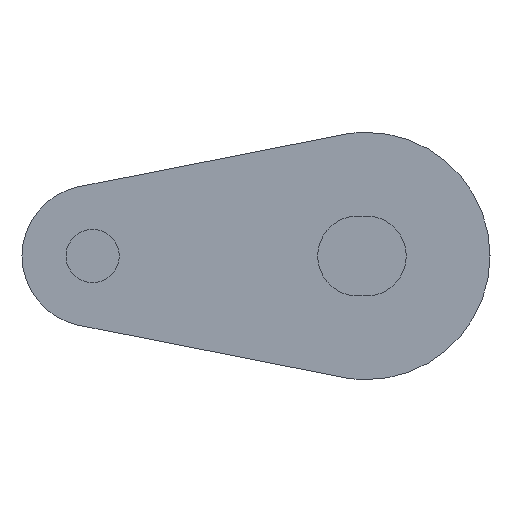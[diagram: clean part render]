
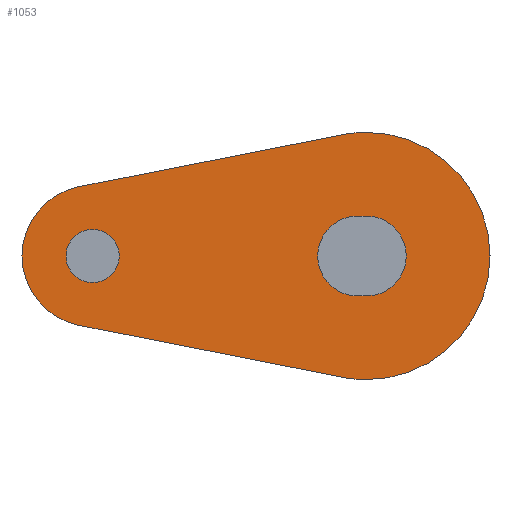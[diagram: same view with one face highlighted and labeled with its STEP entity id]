
A CAD part, left-side view. The second image highlights one B-rep face of the part: STEP entity #1053.
In plain terms, the highlighted planar face has unit normal (-1, 0, 0).
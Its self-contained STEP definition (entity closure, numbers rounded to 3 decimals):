
#29 = FACE_OUTER_BOUND ( 'NONE', #1003, .T. ) ;
#31 = FACE_BOUND ( 'NONE', #995, .T. ) ;
#34 = FACE_BOUND ( 'NONE', #994, .T. ) ;
#61 = AXIS2_PLACEMENT_3D ( 'NONE', #309, #307, #302 ) ;
#71 = AXIS2_PLACEMENT_3D ( 'NONE', #460, #467, #466 ) ;
#78 = AXIS2_PLACEMENT_3D ( 'NONE', #542, #541, #540 ) ;
#80 = AXIS2_PLACEMENT_3D ( 'NONE', #563, #562, #538 ) ;
#89 = AXIS2_PLACEMENT_3D ( 'NONE', #539, #543, #547 ) ;
#100 = AXIS2_PLACEMENT_3D ( 'NONE', #481, #491, #490 ) ;
#142 = AXIS2_PLACEMENT_3D ( 'NONE', #522, #657, #658 ) ;
#147 = AXIS2_PLACEMENT_3D ( 'NONE', #623, #622, #625 ) ;
#148 = AXIS2_PLACEMENT_3D ( 'NONE', #510, #487, #486 ) ;
#160 = EDGE_CURVE ( 'NONE', #603, #596, #793, .T. ) ;
#167 = EDGE_CURVE ( 'NONE', #652, #609, #782, .T. ) ;
#169 = EDGE_CURVE ( 'NONE', #616, #637, #779, .T. ) ;
#171 = EDGE_CURVE ( 'NONE', #637, #603, #780, .T. ) ;
#180 = EDGE_CURVE ( 'NONE', #609, #652, #765, .T. ) ;
#194 = EDGE_CURVE ( 'NONE', #682, #681, #740, .T. ) ;
#198 = EDGE_CURVE ( 'NONE', #635, #682, #733, .T. ) ;
#201 = EDGE_CURVE ( 'NONE', #621, #635, #731, .T. ) ;
#202 = EDGE_CURVE ( 'NONE', #596, #616, #739, .T. ) ;
#205 = EDGE_CURVE ( 'NONE', #605, #627, #722, .T. ) ;
#213 = EDGE_CURVE ( 'NONE', #627, #621, #709, .T. ) ;
#214 = EDGE_CURVE ( 'NONE', #681, #605, #706, .T. ) ;
#302 = DIRECTION ( 'NONE',  ( 0., 0., -1. ) ) ;
#307 = DIRECTION ( 'NONE',  ( -1., 0., 0. ) ) ;
#309 = CARTESIAN_POINT ( 'NONE',  ( -353.5, 15.5, 0. ) ) ;
#312 = PLANE ( 'NONE',  #61 ) ;
#336 = CARTESIAN_POINT ( 'NONE',  ( -353.5, 15.5, 1.51 ) ) ;
#352 = CARTESIAN_POINT ( 'NONE',  ( -353.5, 0.5, 2.26 ) ) ;
#365 = CARTESIAN_POINT ( 'NONE',  ( -353.5, 15.5, -1.51 ) ) ;
#367 = CARTESIAN_POINT ( 'NONE',  ( -353.5, 1.355, -6.868 ) ) ;
#369 = CARTESIAN_POINT ( 'NONE',  ( -353.5, 0.5, -2.26 ) ) ;
#370 = CARTESIAN_POINT ( 'NONE',  ( -353.5, 16.274, 3.924 ) ) ;
#373 = CARTESIAN_POINT ( 'NONE',  ( -353.5, 0., 2.26 ) ) ;
#378 = CARTESIAN_POINT ( 'NONE',  ( -353.5, 16.274, -3.924 ) ) ;
#380 = CARTESIAN_POINT ( 'NONE',  ( -353.5, 0., -2.26 ) ) ;
#382 = CARTESIAN_POINT ( 'NONE',  ( -353.5, 1.355, 6.868 ) ) ;
#426 = CARTESIAN_POINT ( 'NONE',  ( -353.5, 0., -7. ) ) ;
#429 = CARTESIAN_POINT ( 'NONE',  ( -353.5, 0., 7. ) ) ;
#453 = DIRECTION ( 'NONE',  ( 0., 0.981, 0.194 ) ) ;
#454 = CARTESIAN_POINT ( 'NONE',  ( -353.5, 1.355, -6.868 ) ) ;
#460 = CARTESIAN_POINT ( 'NONE',  ( -353.5, 0., 0. ) ) ;
#463 = CARTESIAN_POINT ( 'NONE',  ( -353.5, 16.274, 3.924 ) ) ;
#466 = DIRECTION ( 'NONE',  ( 0., 0., -1. ) ) ;
#467 = DIRECTION ( 'NONE',  ( 1., 0., 0. ) ) ;
#472 = DIRECTION ( 'NONE',  ( 0., -0.981, 0.194 ) ) ;
#473 = CARTESIAN_POINT ( 'NONE',  ( -353.5, 0.5, 2.26 ) ) ;
#476 = DIRECTION ( 'NONE',  ( 0., -1., 0. ) ) ;
#481 = CARTESIAN_POINT ( 'NONE',  ( -353.5, 0., 0. ) ) ;
#486 = DIRECTION ( 'NONE',  ( 0., 0., -1. ) ) ;
#487 = DIRECTION ( 'NONE',  ( 1., 0., 0. ) ) ;
#490 = DIRECTION ( 'NONE',  ( 0., 0., -1. ) ) ;
#491 = DIRECTION ( 'NONE',  ( 1., 0., 0. ) ) ;
#510 = CARTESIAN_POINT ( 'NONE',  ( -353.5, 15.5, 0. ) ) ;
#522 = CARTESIAN_POINT ( 'NONE',  ( -353.5, 0., 0. ) ) ;
#538 = DIRECTION ( 'NONE',  ( 0., 0., -1. ) ) ;
#539 = CARTESIAN_POINT ( 'NONE',  ( -353.5, 0., 0. ) ) ;
#540 = DIRECTION ( 'NONE',  ( 0., 0., -1. ) ) ;
#541 = DIRECTION ( 'NONE',  ( 1., 0., 0. ) ) ;
#542 = CARTESIAN_POINT ( 'NONE',  ( -353.5, 15.5, 0. ) ) ;
#543 = DIRECTION ( 'NONE',  ( 1., 0., 0. ) ) ;
#547 = DIRECTION ( 'NONE',  ( 0., 0., -1. ) ) ;
#550 = DIRECTION ( 'NONE',  ( 0., 1., 0. ) ) ;
#562 = DIRECTION ( 'NONE',  ( 1., 0., 0. ) ) ;
#563 = CARTESIAN_POINT ( 'NONE',  ( -353.5, 15.5, 0. ) ) ;
#583 = CARTESIAN_POINT ( 'NONE',  ( -353.5, 0.5, -2.26 ) ) ;
#596 = VERTEX_POINT ( 'NONE', #352 ) ;
#603 = VERTEX_POINT ( 'NONE', #369 ) ;
#605 = VERTEX_POINT ( 'NONE', #367 ) ;
#609 = VERTEX_POINT ( 'NONE', #365 ) ;
#616 = VERTEX_POINT ( 'NONE', #373 ) ;
#621 = VERTEX_POINT ( 'NONE', #370 ) ;
#622 = DIRECTION ( 'NONE',  ( 1., 0., 0. ) ) ;
#623 = CARTESIAN_POINT ( 'NONE',  ( -353.5, 0.5, 0. ) ) ;
#625 = DIRECTION ( 'NONE',  ( 0., 0., -1. ) ) ;
#627 = VERTEX_POINT ( 'NONE', #378 ) ;
#635 = VERTEX_POINT ( 'NONE', #382 ) ;
#637 = VERTEX_POINT ( 'NONE', #380 ) ;
#652 = VERTEX_POINT ( 'NONE', #336 ) ;
#657 = DIRECTION ( 'NONE',  ( 1., 0., 0. ) ) ;
#658 = DIRECTION ( 'NONE',  ( 0., 0., -1. ) ) ;
#681 = VERTEX_POINT ( 'NONE', #426 ) ;
#682 = VERTEX_POINT ( 'NONE', #429 ) ;
#706 = CIRCLE ( 'NONE', #100, 7. ) ;
#709 = CIRCLE ( 'NONE', #148, 4. ) ;
#721 = VECTOR ( 'NONE', #453, 1000. ) ;
#722 = LINE ( 'NONE', #454, #721 ) ;
#728 = VECTOR ( 'NONE', #476, 1000. ) ;
#731 = LINE ( 'NONE', #463, #736 ) ;
#733 = CIRCLE ( 'NONE', #71, 7. ) ;
#736 = VECTOR ( 'NONE', #472, 1000. ) ;
#739 = LINE ( 'NONE', #473, #728 ) ;
#740 = CIRCLE ( 'NONE', #142, 7. ) ;
#765 = CIRCLE ( 'NONE', #80, 1.51 ) ;
#778 = VECTOR ( 'NONE', #550, 1000. ) ;
#779 = CIRCLE ( 'NONE', #89, 2.26 ) ;
#780 = LINE ( 'NONE', #583, #778 ) ;
#782 = CIRCLE ( 'NONE', #78, 1.51 ) ;
#793 = CIRCLE ( 'NONE', #147, 2.26 ) ;
#837 = ORIENTED_EDGE ( 'NONE', *, *, #201, .F. ) ;
#838 = ORIENTED_EDGE ( 'NONE', *, *, #205, .F. ) ;
#839 = ORIENTED_EDGE ( 'NONE', *, *, #214, .F. ) ;
#840 = ORIENTED_EDGE ( 'NONE', *, *, #202, .T. ) ;
#841 = ORIENTED_EDGE ( 'NONE', *, *, #213, .F. ) ;
#843 = ORIENTED_EDGE ( 'NONE', *, *, #180, .T. ) ;
#845 = ORIENTED_EDGE ( 'NONE', *, *, #160, .T. ) ;
#908 = ORIENTED_EDGE ( 'NONE', *, *, #198, .F. ) ;
#956 = ORIENTED_EDGE ( 'NONE', *, *, #169, .T. ) ;
#978 = ORIENTED_EDGE ( 'NONE', *, *, #194, .F. ) ;
#994 = EDGE_LOOP ( 'NONE', ( #845, #840, #956, #1006 ) ) ;
#995 = EDGE_LOOP ( 'NONE', ( #843, #1005 ) ) ;
#1003 = EDGE_LOOP ( 'NONE', ( #841, #838, #839, #978, #908, #837 ) ) ;
#1005 = ORIENTED_EDGE ( 'NONE', *, *, #167, .T. ) ;
#1006 = ORIENTED_EDGE ( 'NONE', *, *, #171, .T. ) ;
#1053 = ADVANCED_FACE ( 'NONE', ( #34, #31, #29 ), #312, .T. ) ;
